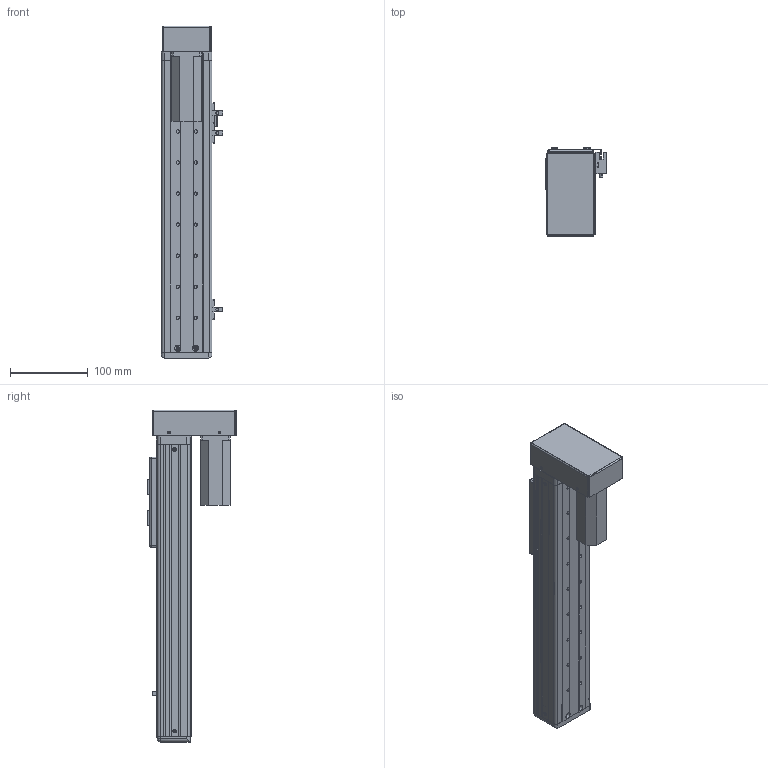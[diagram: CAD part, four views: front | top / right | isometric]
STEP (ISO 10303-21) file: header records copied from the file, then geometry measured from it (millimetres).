
FILE_DESCRIPTION (( 'STEP AP203' ), '1' );
FILE_NAME ('RY60F-L1210-300-BK.SLDASM_200.step', '2021-03-02T06:47:15', ( '盈信电脑' ), ( '东莞市道滘镇水果街19号' ), 'SwSTEP 2.0', 'SolidWorks 2012', '' );
FILE_SCHEMA (( 'CONFIG_CONTROL_DESIGN' ));
Length unit declared in the file: millimetre
Products named in the file (17): RY60F-L1210-300-BK.SLDASM_200; RY60F-狟殏萇儂假蚾啣(100W PCD45 M3); RY60F-狟殏萇儂欶(100W); RY60F-转折电机端丝杆安装座; 俋噤12酗29滅袉蝶; 俋噤12酗38滅袉蝶; 侂狟100W; 覜茼ん672; RY60F-300-蛌殏滅鳥詩え-BK_200; RY60F-L1210-300-BK蛌殏俋褲_200; RY50F-300-MR15W蛌殏絳寢-BK_200; RY50-60詩湍揤啣; RY60F-祥凄詩滅鳥裔; RY60F-嫖萇羲壽結え; RY60F-浮动端丝杆支撑座; RY60F-臏賑輸; RY60F-滅鳥詩え盓殤
Assembly tree (20 placements, depth 2):
  RY60F-L1210-300-BK.SLDASM_200
    RY60F-臏賑輸
    RY60F-浮动端丝杆支撑座
    RY60F-滅鳥詩え盓殤
    RY60F-嫖萇羲壽結え
    RY50-60詩湍揤啣  x2
    RY60F-祥凄詩滅鳥裔
    RY60F-L1210-300-BK蛌殏俋褲_200  x2
    覜茼ん672  x3
    RY60F-300-蛌殏滅鳥詩え-BK_200
    RY50F-300-MR15W蛌殏絳寢-BK_200
    俋噤12酗29滅袉蝶
    俋噤12酗38滅袉蝶
    侂狟100W
    RY60F-转折电机端丝杆安装座
    RY60F-狟殏萇儂假蚾啣(100W PCD45 M3)
    RY60F-狟殏萇儂欶(100W)
Bounding box: 78.7 x 114 x 428 mm (x, y, z)
Volume: 553951.3 mm3; surface area: 348444.5 mm2
Topology: 20 solids, 21 shells, 1037 faces, 2818 edges, 1783 vertices
Faces by surface type: plane 463, cylinder 462, cone 94, bspline 18
Entity records: 31526 total; most frequent: CARTESIAN_POINT 6122, DIRECTION 4985, ORIENTED_EDGE 4800, EDGE_CURVE 2400, AXIS2_PLACEMENT_3D 1766, VERTEX_POINT 1559, VECTOR 1453, LINE 1453
